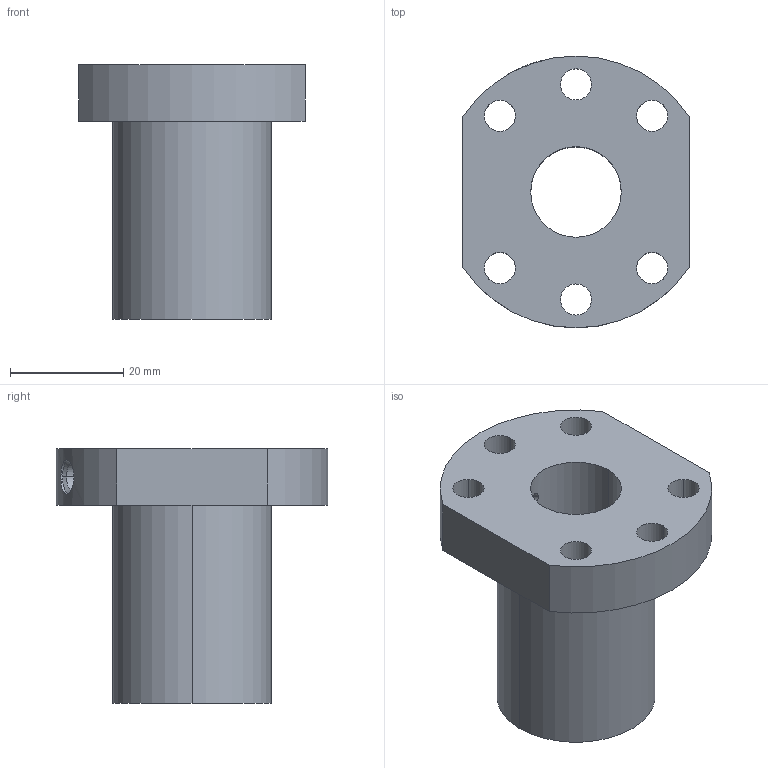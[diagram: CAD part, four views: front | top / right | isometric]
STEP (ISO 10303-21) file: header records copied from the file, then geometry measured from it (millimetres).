
FILE_DESCRIPTION(('STEP AP214'),'1');
FILE_NAME('cfr165sfud3_17545-.stp','2024-12-09T07:26:05',('TraceParts'),('TraceParts S.A.'),'Spatial InterOp 3D',' ',' ');
FILE_SCHEMA(('AUTOMOTIVE_DESIGN { 1 0 10303 214 1 1 1 1 }'));
Length unit declared in the file: millimetre
Products named in the file (1): cfr165sfud3_17545-
Bounding box: 40 x 48 x 45 mm (x, y, z)
Volume: 27516.8 mm3; surface area: 10687.3 mm2
Topology: 1 solids, 1 shells, 38 faces, 92 edges, 58 vertices
Faces by surface type: cylinder 26, cone 6, plane 6
Entity records: 1586 total; most frequent: CARTESIAN_POINT 305, DIRECTION 216, ORIENTED_EDGE 184, EDGE_CURVE 92, AXIS2_PLACEMENT_3D 89, VERTEX_POINT 58, EDGE_LOOP 56, CIRCLE 50
